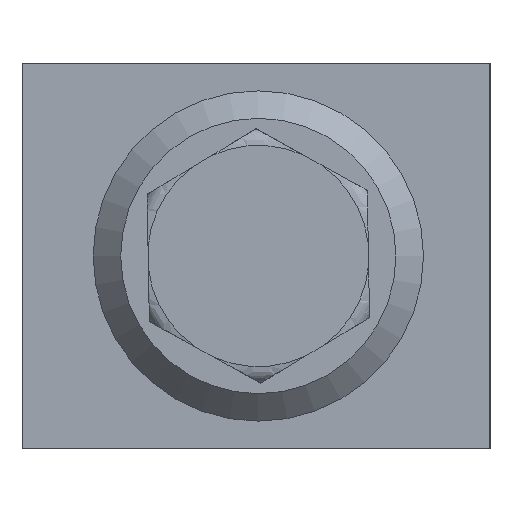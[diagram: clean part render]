
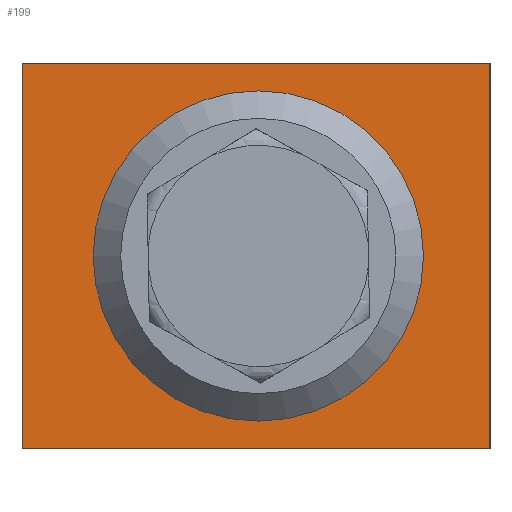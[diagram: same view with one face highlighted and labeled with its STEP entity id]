
A CAD part, left-side view. The second image highlights one B-rep face of the part: STEP entity #199.
In plain terms, the highlighted planar face has unit normal (-1, 0, 0).
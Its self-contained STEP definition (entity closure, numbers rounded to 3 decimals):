
#87=PLANE('',#1676);
#143=FACE_BOUND('',#387,.T.);
#144=FACE_BOUND('',#388,.T.);
#199=ADVANCED_FACE('',(#143,#144),#87,.F.);
#387=EDGE_LOOP('',(#678));
#388=EDGE_LOOP('',(#679,#680,#681,#682));
#589=CIRCLE('',#1675,30.);
#678=ORIENTED_EDGE('',*,*,#1294,.F.);
#679=ORIENTED_EDGE('',*,*,#1295,.T.);
#680=ORIENTED_EDGE('',*,*,#1287,.F.);
#681=ORIENTED_EDGE('',*,*,#1296,.F.);
#682=ORIENTED_EDGE('',*,*,#1297,.T.);
#1122=VERTEX_POINT('',#3822);
#1123=VERTEX_POINT('',#3824);
#1129=VERTEX_POINT('',#3838);
#1130=VERTEX_POINT('',#3840);
#1131=VERTEX_POINT('',#3842);
#1287=EDGE_CURVE('',#1122,#1123,#1492,.T.);
#1294=EDGE_CURVE('',#1129,#1129,#589,.T.);
#1295=EDGE_CURVE('',#1130,#1123,#1497,.T.);
#1296=EDGE_CURVE('',#1131,#1122,#1498,.T.);
#1297=EDGE_CURVE('',#1131,#1130,#1499,.T.);
#1492=LINE('',#3823,#1578);
#1497=LINE('',#3839,#1583);
#1498=LINE('',#3841,#1584);
#1499=LINE('',#3843,#1585);
#1578=VECTOR('',#1842,1.);
#1583=VECTOR('',#1855,1.);
#1584=VECTOR('',#1856,1.);
#1585=VECTOR('',#1857,1.);
#1675=AXIS2_PLACEMENT_3D('',#3837,#1853,#1854);
#1676=AXIS2_PLACEMENT_3D('',#3844,#1858,#1859);
#1842=DIRECTION('',(0.,0.,-1.));
#1853=DIRECTION('',(-1.,0.,0.));
#1854=DIRECTION('',(0.,-1.,0.));
#1855=DIRECTION('',(0.,-1.,0.));
#1856=DIRECTION('',(0.,-1.,0.));
#1857=DIRECTION('',(0.,0.,-1.));
#1858=DIRECTION('',(1.,0.,0.));
#1859=DIRECTION('',(0.,0.,-1.));
#3822=CARTESIAN_POINT('',(-62.5,-42.5,70.));
#3823=CARTESIAN_POINT('',(-62.5,-42.5,70.));
#3824=CARTESIAN_POINT('',(-62.5,-42.5,0.));
#3837=CARTESIAN_POINT('',(-62.5,-0.421,35.));
#3838=CARTESIAN_POINT('',(-62.5,-30.421,35.));
#3839=CARTESIAN_POINT('',(-62.5,42.5,0.));
#3840=CARTESIAN_POINT('',(-62.5,42.5,0.));
#3841=CARTESIAN_POINT('',(-62.5,42.5,70.));
#3842=CARTESIAN_POINT('',(-62.5,42.5,70.));
#3843=CARTESIAN_POINT('',(-62.5,42.5,70.));
#3844=CARTESIAN_POINT('',(-62.5,42.5,70.));
